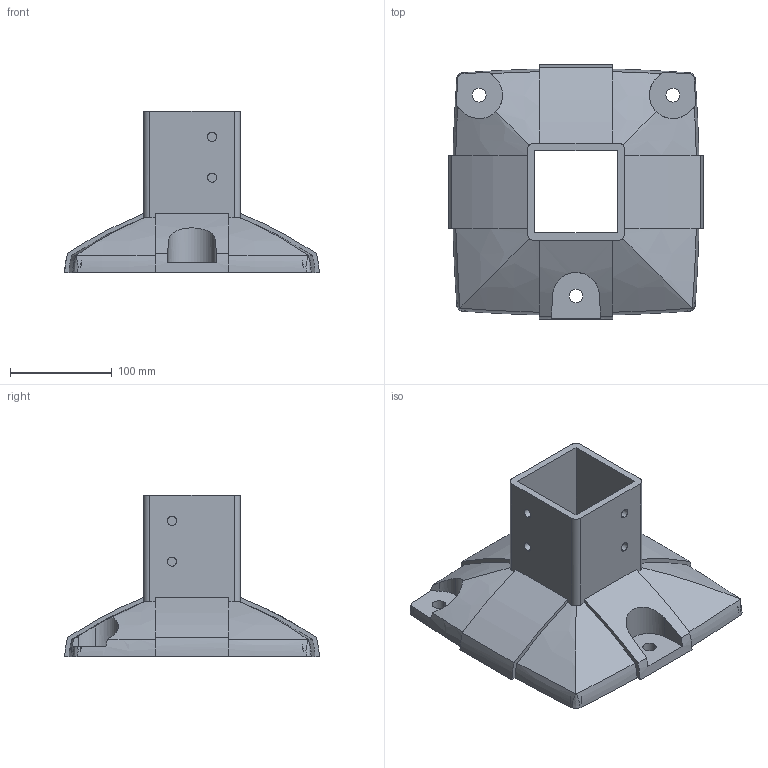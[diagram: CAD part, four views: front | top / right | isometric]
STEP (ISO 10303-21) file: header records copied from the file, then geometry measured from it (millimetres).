
FILE_DESCRIPTION (( 'STEP AP203' ), '1' );
FILE_NAME ('TCFF 80x250 Bodemconsole (01-06-2021).STEP', '2021-06-01T06:12:54', ( '' ), ( '' ), 'SwSTEP 2.0', 'SolidWorks 2020', '' );
FILE_SCHEMA (( 'CONFIG_CONTROL_DESIGN' ));
Length unit declared in the file: millimetre
Products named in the file (1): TCFF 80x250 Bodemconsole (01-06-2021)
Bounding box: 250 x 250 x 158.2 mm (x, y, z)
Volume: 2004180 mm3; surface area: 220229 mm2
Topology: 1 solids, 1 shells, 93 faces, 261 edges, 174 vertices
Faces by surface type: plane 35, cylinder 30, bspline 28
Entity records: 5745 total; most frequent: CARTESIAN_POINT 3558, ORIENTED_EDGE 522, DIRECTION 303, EDGE_CURVE 261, VERTEX_POINT 174, B_SPLINE_CURVE_WITH_KNOTS 120, EDGE_LOOP 113, AXIS2_PLACEMENT_3D 105
